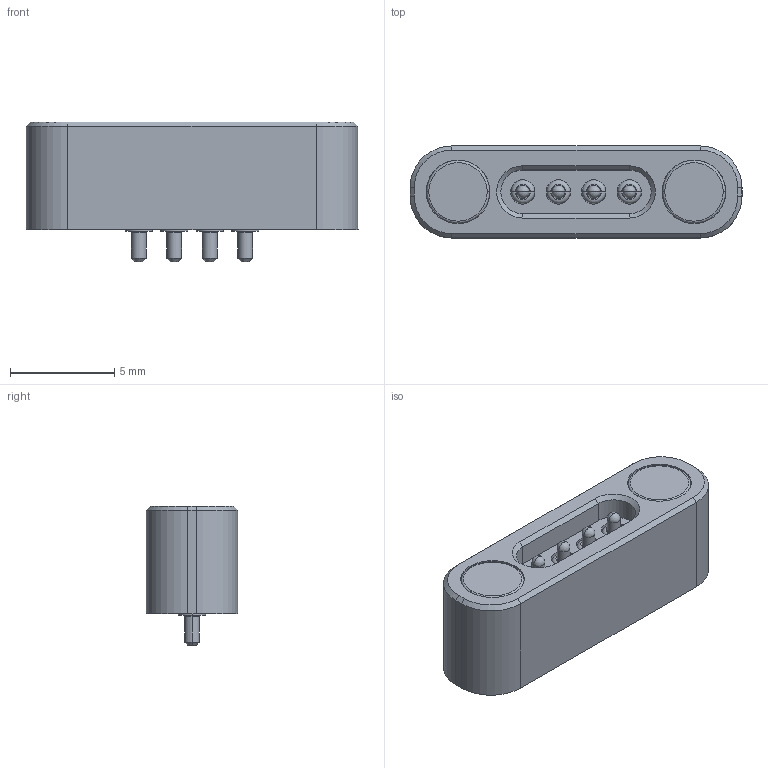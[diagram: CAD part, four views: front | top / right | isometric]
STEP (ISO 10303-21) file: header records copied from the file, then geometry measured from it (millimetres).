
FILE_DESCRIPTION((''),'2;1');
FILE_NAME('H708_REF_2','2022-05-18T16:39:25',('Administrator'),(''),'CREO PARAMETRIC BY PTC INC, 2018400','CREO PARAMETRIC BY PTC INC, 2018400','');
FILE_SCHEMA(('CONFIG_CONTROL_DESIGN'));
Length unit declared in the file: millimetre
Products named in the file (1): H708_REF_2
Bounding box: 15.9 x 4.4 x 6.7 mm (x, y, z)
Volume: 303.5 mm3; surface area: 478.1 mm2
Topology: 1 solids, 1 shells, 161 faces, 376 edges, 236 vertices
Faces by surface type: plane 71, cylinder 44, cone 22, torus 16, sphere 8
Entity records: 4614 total; most frequent: DIRECTION 868, CARTESIAN_POINT 765, ORIENTED_EDGE 736, EDGE_CURVE 368, AXIS2_PLACEMENT_3D 339, VERTEX_POINT 236, VECTOR 190, LINE 190
